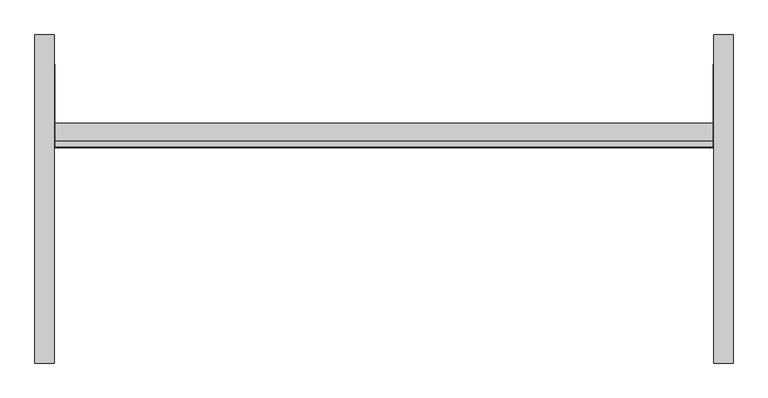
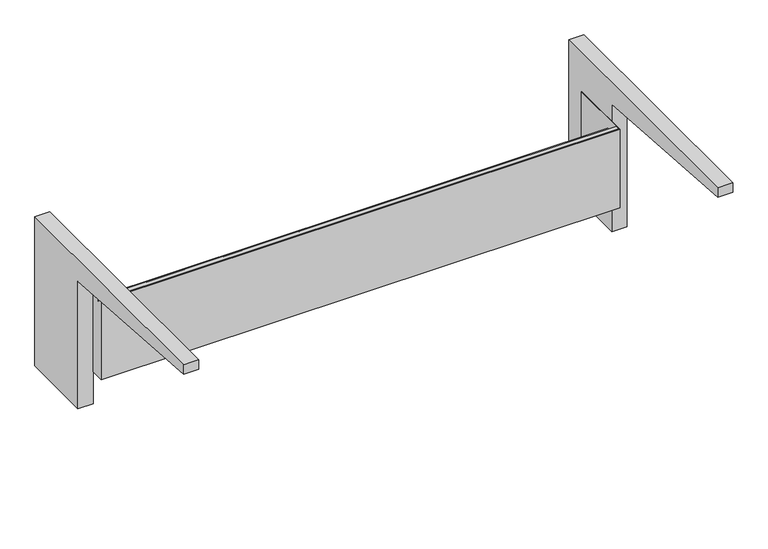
"""IFC4 building model written with IfcOpenShell, lengths in millimetres: furniture geometry."""

from ifc_helpers import new_model, si_unit, point, frame, frame_2d, origin, place, context, project, spatial, polyline, circle_curve, trimmed, segment, composite_curve, outline, extrude, source, transform, mapped, element, save


def furniture_abf15333(model_context):
    return source(origin(), model_context, "Body", "SweptSolid", [
        extrude(outline(composite_curve([segment(polyline([(177.8, 541.3502), (177.8, 192.1002), (12.7, 192.1002), (12.7, 490.5502)]), True, "CONTINUOUS"), segment(trimmed(circle_curve(frame_2d((-388.143904, -2317.7524637)), 2836.7657088), [point((12.7, 490.5502))], [point((-393.7, 519.0078039))], True, "CARTESIAN"), True, "CONTINUOUS"), segment(polyline([(-393.7, 519.0078039), (-393.7, 541.3502), (177.8, 541.3502)]), True, "CONTINUOUS")], self_intersect=False)), frame((574.675, 0.0, 0.0), z_axis=(1.0, 0.0, 0.0), x_axis=(0.0, 1.0, 0.0)), (0.0, 0.0, 1.0), 33.3375),
        extrude(outline(composite_curve([segment(polyline([(-393.7, 519.0078039), (-393.7, 541.3502), (177.8, 541.3502), (177.8, 192.1002), (12.7, 192.1002), (12.7, 490.5502)]), True, "CONTINUOUS"), segment(trimmed(circle_curve(frame_2d((-388.143904, -2317.7524637)), 2836.7657088), [point((12.7, 490.5502))], [point((-393.7, 519.0078039))], True, "CARTESIAN"), True, "CONTINUOUS")], self_intersect=False)), frame((-608.0125, 0.0, 0.0), z_axis=(1.0, 0.0, 0.0), x_axis=(0.0, 1.0, 0.0)), (0.0, 0.0, 1.0), 33.3375),
        extrude(outline(polyline([(-573.0875, -17.4625), (573.0875, -17.4625), (573.0875, 127.0), (574.675, 127.0), (574.675, -19.05), (-574.675, -19.05), (-574.675, 127.0), (-573.0875, 127.0), (-573.0875, -17.4625)])), frame((0.0, 0.0, 267.6398), z_axis=(0.0, 0.0, 1.0), x_axis=(1.0, 0.0, 0.0)), (0.0, 0.0, 1.0), 184.15),
        extrude(outline(polyline([(-7.9057553, 450.99605), (-17.4625, 450.99605), (-17.4625, 428.77105), (24.1300012, 428.77105), (24.1300012, 267.6398), (-19.05, 267.6398), (-19.05, 451.7898), (-7.1120053, 451.7898), (-7.1120053, 444.7793994), (-7.9057553, 444.7793994), (-7.9057553, 450.99605)])), frame((-574.675, 0.0, 0.0), z_axis=(1.0, 0.0, 0.0), x_axis=(0.0, 1.0, 0.0)), (0.0, 0.0, 1.0), 1149.35),
    ])


if __name__ == "__main__":
    model = new_model("IFC4")
    model_context = context("Model", 3, world=origin())
    ifc_project = project(units=[si_unit("LENGTHUNIT", "METRE", prefix="MILLI")], contexts=[model_context])
    site = spatial("IfcSite", under=ifc_project)
    building = spatial("IfcBuilding", under=site)
    placement = place(None, origin())
    furniture_shape = furniture_abf15333(model_context)
    element("IfcFurniture", 1, ObjectType="HermanMiller_CoStruc_C2140W_WorkSurfaceSupport_ComponentAdaptor : 14\"H x 24\"D x 48\"W", at=placement, inside=building, context=model_context, shape_type="MappedRepresentation", body=[
        mapped(furniture_shape, transform((0.0, 0.0, 0.0), x_axis=(1.0, 0.0, 0.0), y_axis=(0.0, 1.0, 0.0), z_axis=(0.0, 0.0, 1.0))),
    ])
    save(model, "model.ifc")
